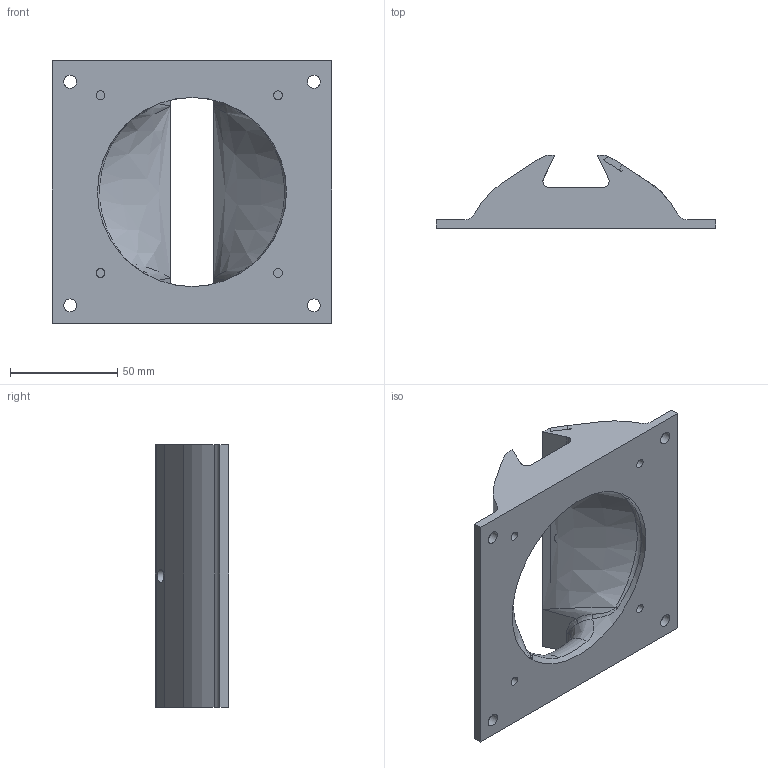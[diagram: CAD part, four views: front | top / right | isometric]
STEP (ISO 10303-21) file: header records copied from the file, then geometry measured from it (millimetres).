
FILE_DESCRIPTION(/* description */ (''),/* implementation_level */ '2;1');
FILE_NAME(/* name */ 'airduct_middle_airpathtext_JARVIS_airpath.step',/* time_stamp */ '2023-06-05T13:35:11+02:00',/* author */ (''),/* organization */ (''),/* preprocessor_version */ 'ST-DEVELOPER v19.2',/* originating_system */ 'Autodesk Translation Framework v12.6.0.85',/* authorisation */ '');
FILE_SCHEMA (('AUTOMOTIVE_DESIGN { 1 0 10303 214 3 1 1 }'));
Length unit declared in the file: millimetre
Products named in the file (1): 4_endcap_JARVIS_airpath
Bounding box: 130 x 34 x 122.26 mm (x, y, z)
Volume: 157714.9 mm3; surface area: 47297.1 mm2
Topology: 1 solids, 1 shells, 281 faces, 797 edges, 515 vertices
Faces by surface type: plane 196, bspline 52, cylinder 31, torus 2
Full cylindrical faces by diameter (mm): 4.125 x4, 6 x7, 88 x1
Entity records: 10811 total; most frequent: CARTESIAN_POINT 3803, ORIENTED_EDGE 1578, DIRECTION 1209, EDGE_CURVE 789, LINE 587, VECTOR 587, VERTEX_POINT 515, AXIS2_PLACEMENT_3D 311
